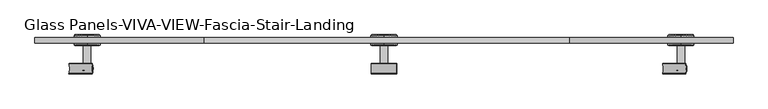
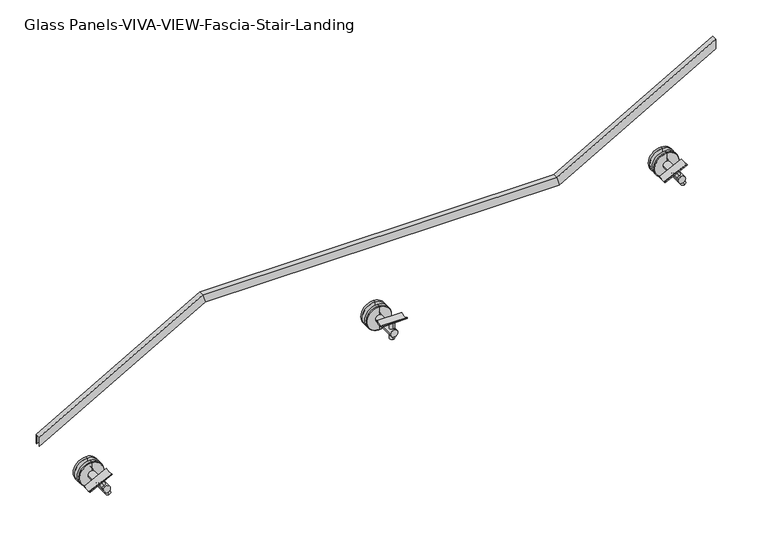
"""IFC4 building model written with IfcOpenShell, lengths in millimetres: railing geometry, Glass Panels-VIVA-VIEW-Fascia-Stair-Landing."""

from ifc_helpers import new_model, si_unit, point, frame, frame_2d, origin, place, context, project, spatial, polyline, circle_curve, trimmed, segment, composite_curve, outline, extrude, faceted_brep, source, transform, mapped, element, save
from ifc_brep_helpers import plane_surface, cylinder_surface, revolved_surface, advanced_brep


def glass_panels_viva_view_fascia_stair_landing_1252441f(model_context):
    return source(origin(), model_context, "Body", "SolidModel", [
        faceted_brep([(34673.4016433, -1461.4844585, 2988.1285714), (34673.4016433, -1445.6094585, 2988.1285714), (34673.4016433, -1445.6094585, 2958.8740933), (34673.4016433, -1447.1969585, 2958.8740933), (34673.4016433, -1447.1969585, 2986.3001665), (34673.4016433, -1459.8969585, 2986.3001665), (34673.4016433, -1459.8969585, 2958.8740933), (34673.4016433, -1461.4844585, 2958.8740933), (35165.5266433, -1461.4844585, 3269.3428571), (35165.5266433, -1445.6094585, 3269.3428571), (35172.27198, -1445.6094585, 3243.9428571), (35172.27198, -1447.1969585, 3243.9428571), (35165.9482268, -1447.1969585, 3267.7553571), (35165.9482268, -1459.8969585, 3267.7553571), (35172.27198, -1459.8969585, 3243.9428571), (35172.27198, -1461.4844585, 3243.9428571), (36232.3266433, -1461.4844585, 3269.3428571), (36232.3266433, -1445.6094585, 3269.3428571), (36239.07198, -1445.6094585, 3243.9428571), (36239.07198, -1447.1969585, 3243.9428571), (36232.7482268, -1447.1969585, 3267.7553571), (36232.7482268, -1459.8969585, 3267.7553571), (36239.07198, -1459.8969585, 3243.9428571), (36239.07198, -1461.4844585, 3243.9428571), (36710.9578933, -1461.4844585, 3542.8464286), (36710.9578933, -1461.4844585, 3513.5919505), (36710.9578933, -1459.8969585, 3513.5919505), (36710.9578933, -1459.8969585, 3541.0180237), (36710.9578933, -1447.1969585, 3541.0180237), (36710.9578933, -1447.1969585, 3513.5919505), (36710.9578933, -1445.6094585, 3513.5919505), (36710.9578933, -1445.6094585, 3542.8464286)], [[[0, 1, 2, 3, 4, 5, 6, 7]], [[1, 0, 8, 9]], [[2, 1, 9, 10]], [[3, 2, 10, 11]], [[4, 3, 11, 12]], [[5, 4, 12, 13]], [[6, 5, 13, 14]], [[7, 6, 14, 15]], [[0, 7, 15, 8]], [[9, 8, 16, 17]], [[10, 9, 17, 18]], [[11, 10, 18, 19]], [[12, 11, 19, 20]], [[13, 12, 20, 21]], [[14, 13, 21, 22]], [[15, 14, 22, 23]], [[8, 15, 23, 16]], [[24, 25, 26, 27, 28, 29, 30, 31]], [[17, 16, 24, 31]], [[18, 17, 31, 30]], [[19, 18, 30, 29]], [[20, 19, 29, 28]], [[21, 20, 28, 27]], [[22, 21, 27, 26]], [[23, 22, 26, 25]], [[16, 23, 25, 24]]]),
        extrude(outline(composite_curve([segment(trimmed(circle_curve(frame_2d((35692.1797683, -1535.7668194)), 7.0), [point((35692.1797683, -1542.7668194))], [point((35692.1797683, -1528.7668194))], False, "CARTESIAN"), True, "CONTINUOUS"), segment(trimmed(circle_curve(frame_2d((35692.1797683, -1535.7668194)), 7.0), [point((35692.1797683, -1528.7668194))], [point((35692.1797683, -1542.7668194))], False, "CARTESIAN"), True, "CONTINUOUS")], self_intersect=False)), frame((0.0, 0.0, 2992.4664418), z_axis=(0.0, 0.0, 1.0), x_axis=(1.0, 0.0, 0.0)), (0.0, 0.0, 1.0), 52.8378352),
        extrude(outline(composite_curve([segment(polyline([(5.2466064, -13.9247916), (4.2292193, -14.9511812)]), True, "CONTINUOUS"), segment(trimmed(circle_curve(frame_2d((3.1638974, -13.8952033)), 1.5), [point((4.2292193, -14.9511812))], [point((2.0329757, -14.8806048))], False, "CARTESIAN"), True, "CONTINUOUS"), segment(trimmed(circle_curve(frame_2d((18.6575251, -0.3952033)), 22.05), [point((2.0329757, -14.8806048))], [point((2.0329757, 14.0901981))], False, "CARTESIAN"), True, "CONTINUOUS"), segment(trimmed(circle_curve(frame_2d((3.1638974, 13.1047967)), 1.5), [point((2.0329757, 14.0901981))], [point((4.2292193, 14.1607745))], False, "CARTESIAN"), True, "CONTINUOUS"), segment(polyline([(4.2292193, 14.1607745), (5.2466064, 13.1343849)]), True, "CONTINUOUS"), segment(trimmed(circle_curve(frame_2d((18.6575251, -0.3952033)), 19.05), [point((5.2466064, 13.1343849))], [point((5.2466064, -13.9247916))], True, "CARTESIAN"), True, "CONTINUOUS")], self_intersect=False)), frame((35654.9926572, -1537.4940518, 3048.6249714), z_axis=(0.9999988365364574, 0.0, 0.0015254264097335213), x_axis=(-0.0015254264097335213, 0.0, 0.9999988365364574)), (0.0, 0.0, 1.0), 74.5229187),
        extrude(outline(composite_curve([segment(trimmed(circle_curve(frame_2d((3015.3428571, 35692.1797683)), 11.0132813), [point((3015.3428571, 35703.1930495))], [point((3015.3428571, 35681.166487))], False, "CARTESIAN"), True, "CONTINUOUS"), segment(trimmed(circle_curve(frame_2d((3015.3428571, 35692.1797683)), 11.0132813), [point((3015.3428571, 35681.166487))], [point((3015.3428571, 35703.1930495))], False, "CARTESIAN"), True, "CONTINUOUS")], self_intersect=False)), frame((0.0, -1548.7969585, 0.0), z_axis=(0.0, 1.0, 0.0), x_axis=(0.0, 0.0, 1.0)), (0.0, 0.0, 1.0), 79.2757812),
        advanced_brep(
        [(35692.1797683, -1437.5727397, 3015.3428571), (35692.1797683, -1437.5727397, 2979.2272321), (35692.1797683, -1437.5727397, 3051.4584821), (35692.1797683, -1469.5211772, 2979.2272321), (35692.1797683, -1469.5211772, 3015.3428571), (35692.1797683, -1469.5211772, 3051.4584821), (35692.1797683, -1467.5368022, 2977.2428571), (35692.1797683, -1467.5368022, 3053.4428571), (35692.1797683, -1459.8969585, 2977.2428571), (35692.1797683, -1459.8969585, 3053.4428571), (35692.1797683, -1459.8969585, 3002.6428571), (35692.1797683, -1459.8969585, 3028.0428571), (35692.1797683, -1447.1969585, 3002.6428571), (35692.1797683, -1447.1969585, 3028.0428571), (35692.1797683, -1447.1969585, 2977.2428571), (35692.1797683, -1447.1969585, 3053.4428571), (35692.1797683, -1439.5571147, 2977.2428571), (35692.1797683, -1439.5571147, 3053.4428571)],
        [
            (0, 1),
            (1, 2, circle_curve(frame((35692.1797683, -1437.5727397, 3015.3428571), z_axis=(0.0, 1.0, 0.0), x_axis=(0.0, 0.0, 1.0)), 36.115625)),
            (2, 0),
            (2, 1, circle_curve(frame((35692.1797683, -1437.5727397, 3015.3428571), z_axis=(0.0, 1.0, 0.0), x_axis=(0.0, 0.0, 1.0)), 36.115625)),
            (3, 4),
            (4, 5),
            (5, 3, circle_curve(frame((35692.1797683, -1469.5211772, 3015.3428571), z_axis=(0.0, -1.0, 0.0), x_axis=(0.0, 0.0, 1.0)), 36.115625)),
            (3, 5, circle_curve(frame((35692.1797683, -1469.5211772, 3015.3428571), z_axis=(0.0, -1.0, 0.0), x_axis=(0.0, 0.0, 1.0)), 36.115625)),
            (6, 3),
            (5, 7),
            (7, 6, circle_curve(frame((35692.1797683, -1467.5368022, 3015.3428571), z_axis=(0.0, -1.0, 0.0), x_axis=(0.0, 0.0, 1.0)), 38.1)),
            (6, 7, circle_curve(frame((35692.1797683, -1467.5368022, 3015.3428571), z_axis=(0.0, -1.0, 0.0), x_axis=(0.0, 0.0, 1.0)), 38.1)),
            (8, 6),
            (7, 9),
            (9, 8, circle_curve(frame((35692.1797683, -1459.8969585, 3015.3428571), z_axis=(0.0, -1.0, 0.0), x_axis=(0.0, 0.0, 1.0)), 38.1)),
            (8, 9, circle_curve(frame((35692.1797683, -1459.8969585, 3015.3428571), z_axis=(0.0, -1.0, 0.0), x_axis=(0.0, 0.0, 1.0)), 38.1)),
            (10, 8),
            (9, 11),
            (11, 10, circle_curve(frame((35692.1797683, -1459.8969585, 3015.3428571), z_axis=(0.0, -1.0, 0.0), x_axis=(0.0, 0.0, 1.0)), 12.7)),
            (10, 11, circle_curve(frame((35692.1797683, -1459.8969585, 3015.3428571), z_axis=(0.0, -1.0, 0.0), x_axis=(0.0, 0.0, 1.0)), 12.7)),
            (12, 10),
            (11, 13),
            (13, 12, circle_curve(frame((35692.1797683, -1447.1969585, 3015.3428571), z_axis=(0.0, -1.0, 0.0), x_axis=(0.0, 0.0, 1.0)), 12.7)),
            (12, 13, circle_curve(frame((35692.1797683, -1447.1969585, 3015.3428571), z_axis=(0.0, -1.0, 0.0), x_axis=(0.0, 0.0, 1.0)), 12.7)),
            (14, 12),
            (13, 15),
            (15, 14, circle_curve(frame((35692.1797683, -1447.1969585, 3015.3428571), z_axis=(0.0, -1.0, 0.0), x_axis=(0.0, 0.0, 1.0)), 38.1)),
            (14, 15, circle_curve(frame((35692.1797683, -1447.1969585, 3015.3428571), z_axis=(0.0, -1.0, 0.0), x_axis=(0.0, 0.0, 1.0)), 38.1)),
            (16, 14),
            (15, 17),
            (17, 16, circle_curve(frame((35692.1797683, -1439.5571147, 3015.3428571), z_axis=(0.0, -1.0, 0.0), x_axis=(0.0, 0.0, 1.0)), 38.1)),
            (16, 17, circle_curve(frame((35692.1797683, -1439.5571147, 3015.3428571), z_axis=(0.0, -1.0, 0.0), x_axis=(0.0, 0.0, 1.0)), 38.1)),
            (1, 16),
            (17, 2),
        ],
        [
            plane_surface(frame((35692.1797683, -1437.5727397, 3015.3428571), z_axis=(0.0, 1.0, 0.0), x_axis=(0.0, 0.0, 1.0))),
            plane_surface(frame((35692.1797683, -1469.5211772, 3015.3428571), z_axis=(0.0, -1.0, 0.0), x_axis=(0.0, 0.0, 1.0))),
            revolved_surface(polyline([(35692.1797683, -1469.5211772, 3051.4584821), (35692.1797683, -1467.5368022, 3053.4428571)]), (35692.1797683, -1401.4571147, 3015.3428571), (0.0, 1.0, 0.0)),
            cylinder_surface(frame((35692.1797683, -1401.4571147, 3015.3428571), z_axis=(0.0, 1.0, 0.0), x_axis=(0.0, 0.0, 1.0)), 38.1),
            plane_surface(frame((35692.1797683, -1459.8969585, 3015.3428571), z_axis=(0.0, 1.0, 0.0), x_axis=(0.0, 0.0, 1.0))),
            cylinder_surface(frame((35692.1797683, -1401.4571147, 3015.3428571), z_axis=(0.0, 1.0, 0.0), x_axis=(0.0, 0.0, 1.0)), 12.7),
            plane_surface(frame((35692.1797683, -1447.1969585, 3015.3428571), z_axis=(0.0, -1.0, 0.0), x_axis=(0.0, 0.0, 1.0))),
            revolved_surface(polyline([(35692.1797683, -1439.5571147, 3053.4428571), (35692.1797683, -1437.5727397, 3051.4584821)]), (35692.1797683, -1401.4571147, 3015.3428571), (0.0, 1.0, 0.0)),
        ],
        [
            (0, [[1, 2, 3]]),
            (0, [[-3, 4, -1]]),
            (1, [[5, 6, 7]]),
            (1, [[-6, -5, 8]]),
            (2, [[9, -7, 10, 11]]),
            (2, [[-10, -8, -9, 12]]),
            (3, [[13, -11, 14, 15]]),
            (3, [[-14, -12, -13, 16]]),
            (4, [[17, -15, 18, 19]]),
            (4, [[-18, -16, -17, 20]]),
            (5, [[21, -19, 22, 23]]),
            (5, [[-22, -20, -21, 24]]),
            (6, [[25, -23, 26, 27]]),
            (6, [[-26, -24, -25, 28]]),
            (3, [[29, -27, 30, 31]]),
            (3, [[-30, -28, -29, 32]]),
            (7, [[33, -31, 34, -2]]),
            (7, [[-34, -32, -33, -4]]),
        ],
    ),
        extrude(outline(composite_curve([segment(trimmed(circle_curve(frame_2d((0.0, 7.0)), 7.0), [point((0.0, 14.0))], [point((0.0, 0.0))], False, "CARTESIAN"), True, "CONTINUOUS"), segment(trimmed(circle_curve(frame_2d((0.0, 7.0)), 7.0), [point((0.0, 0.0))], [point((0.0, 14.0))], False, "CARTESIAN"), True, "CONTINUOUS")], self_intersect=False)), frame((36569.978817, -1528.7668194, 3178.8842989), z_axis=(-0.4481147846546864, 0.0, 0.8939760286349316), x_axis=(-0.8939760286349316, 0.0, -0.4481147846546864)), (0.0, 0.0, 1.0), 52.8378352),
        extrude(outline(composite_curve([segment(polyline([(5.2466063, -13.9247916), (4.2292193, -14.9511812)]), True, "CONTINUOUS"), segment(trimmed(circle_curve(frame_2d((3.1638975, -13.8952033)), 1.5), [point((4.2292193, -14.9511812))], [point((2.0329757, -14.8806048))], False, "CARTESIAN"), True, "CONTINUOUS"), segment(trimmed(circle_curve(frame_2d((18.6575251, -0.3952033)), 22.05), [point((2.0329757, -14.8806048))], [point((2.0329757, 14.0901981))], False, "CARTESIAN"), True, "CONTINUOUS"), segment(trimmed(circle_curve(frame_2d((3.1638975, 13.1047967)), 1.5), [point((2.0329757, 14.0901981))], [point((4.2292193, 14.1607745))], False, "CARTESIAN"), True, "CONTINUOUS"), segment(polyline([(4.2292193, 14.1607745), (5.2466063, 13.1343849)]), True, "CONTINUOUS"), segment(trimmed(circle_curve(frame_2d((18.6575251, -0.3952033)), 19.05), [point((5.2466063, 13.1343849))], [point((5.2466063, -13.9247916))], True, "CARTESIAN"), True, "CONTINUOUS")], self_intersect=False)), frame((36507.324839, -1537.4940518, 3210.5094028), z_axis=(0.8953503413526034, 0.0, 0.44536251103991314), x_axis=(-0.44536251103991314, 0.0, 0.8953503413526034)), (0.0, 0.0, 1.0), 74.5229187),
        extrude(outline(composite_curve([segment(trimmed(circle_curve(frame_2d((3201.7607143, 36558.5578933)), 11.0132813), [point((3201.7607143, 36569.5711745))], [point((3201.7607143, 36547.544612))], False, "CARTESIAN"), True, "CONTINUOUS"), segment(trimmed(circle_curve(frame_2d((3201.7607143, 36558.5578933)), 11.0132813), [point((3201.7607143, 36547.544612))], [point((3201.7607143, 36569.5711745))], False, "CARTESIAN"), True, "CONTINUOUS")], self_intersect=False)), frame((0.0, -1548.7969585, 0.0), z_axis=(0.0, 1.0, 0.0), x_axis=(0.0, 0.0, 1.0)), (0.0, 0.0, 1.0), 79.2757812),
        advanced_brep(
        [(36558.5578933, -1437.5727397, 3201.7607143), (36558.5578933, -1437.5727397, 3165.6450893), (36558.5578933, -1437.5727397, 3237.8763393), (36558.5578933, -1469.5211772, 3165.6450893), (36558.5578933, -1469.5211772, 3201.7607143), (36558.5578933, -1469.5211772, 3237.8763393), (36558.5578933, -1467.5368022, 3163.6607143), (36558.5578933, -1467.5368022, 3239.8607143), (36558.5578933, -1459.8969585, 3163.6607143), (36558.5578933, -1459.8969585, 3239.8607143), (36558.5578933, -1459.8969585, 3189.0607143), (36558.5578933, -1459.8969585, 3214.4607143), (36558.5578933, -1447.1969585, 3189.0607143), (36558.5578933, -1447.1969585, 3214.4607143), (36558.5578933, -1447.1969585, 3163.6607143), (36558.5578933, -1447.1969585, 3239.8607143), (36558.5578933, -1439.5571147, 3163.6607143), (36558.5578933, -1439.5571147, 3239.8607143)],
        [
            (0, 1),
            (1, 2, circle_curve(frame((36558.5578933, -1437.5727397, 3201.7607143), z_axis=(0.0, 1.0, 0.0), x_axis=(0.0, 0.0, 1.0)), 36.115625)),
            (2, 0),
            (2, 1, circle_curve(frame((36558.5578933, -1437.5727397, 3201.7607143), z_axis=(0.0, 1.0, 0.0), x_axis=(0.0, 0.0, 1.0)), 36.115625)),
            (3, 4),
            (4, 5),
            (5, 3, circle_curve(frame((36558.5578933, -1469.5211772, 3201.7607143), z_axis=(0.0, -1.0, 0.0), x_axis=(0.0, 0.0, 1.0)), 36.115625)),
            (3, 5, circle_curve(frame((36558.5578933, -1469.5211772, 3201.7607143), z_axis=(0.0, -1.0, 0.0), x_axis=(0.0, 0.0, 1.0)), 36.115625)),
            (6, 3),
            (5, 7),
            (7, 6, circle_curve(frame((36558.5578933, -1467.5368022, 3201.7607143), z_axis=(0.0, -1.0, 0.0), x_axis=(0.0, 0.0, 1.0)), 38.1)),
            (6, 7, circle_curve(frame((36558.5578933, -1467.5368022, 3201.7607143), z_axis=(0.0, -1.0, 0.0), x_axis=(0.0, 0.0, 1.0)), 38.1)),
            (8, 6),
            (7, 9),
            (9, 8, circle_curve(frame((36558.5578933, -1459.8969585, 3201.7607143), z_axis=(0.0, -1.0, 0.0), x_axis=(0.0, 0.0, 1.0)), 38.1)),
            (8, 9, circle_curve(frame((36558.5578933, -1459.8969585, 3201.7607143), z_axis=(0.0, -1.0, 0.0), x_axis=(0.0, 0.0, 1.0)), 38.1)),
            (10, 8),
            (9, 11),
            (11, 10, circle_curve(frame((36558.5578933, -1459.8969585, 3201.7607143), z_axis=(0.0, -1.0, 0.0), x_axis=(0.0, 0.0, 1.0)), 12.7)),
            (10, 11, circle_curve(frame((36558.5578933, -1459.8969585, 3201.7607143), z_axis=(0.0, -1.0, 0.0), x_axis=(0.0, 0.0, 1.0)), 12.7)),
            (12, 10),
            (11, 13),
            (13, 12, circle_curve(frame((36558.5578933, -1447.1969585, 3201.7607143), z_axis=(0.0, -1.0, 0.0), x_axis=(0.0, 0.0, 1.0)), 12.7)),
            (12, 13, circle_curve(frame((36558.5578933, -1447.1969585, 3201.7607143), z_axis=(0.0, -1.0, 0.0), x_axis=(0.0, 0.0, 1.0)), 12.7)),
            (14, 12),
            (13, 15),
            (15, 14, circle_curve(frame((36558.5578933, -1447.1969585, 3201.7607143), z_axis=(0.0, -1.0, 0.0), x_axis=(0.0, 0.0, 1.0)), 38.1)),
            (14, 15, circle_curve(frame((36558.5578933, -1447.1969585, 3201.7607143), z_axis=(0.0, -1.0, 0.0), x_axis=(0.0, 0.0, 1.0)), 38.1)),
            (16, 14),
            (15, 17),
            (17, 16, circle_curve(frame((36558.5578933, -1439.5571147, 3201.7607143), z_axis=(0.0, -1.0, 0.0), x_axis=(0.0, 0.0, 1.0)), 38.1)),
            (16, 17, circle_curve(frame((36558.5578933, -1439.5571147, 3201.7607143), z_axis=(0.0, -1.0, 0.0), x_axis=(0.0, 0.0, 1.0)), 38.1)),
            (1, 16),
            (17, 2),
        ],
        [
            plane_surface(frame((36558.5578933, -1437.5727397, 3201.7607143), z_axis=(0.0, 1.0, 0.0), x_axis=(0.0, 0.0, 1.0))),
            plane_surface(frame((36558.5578933, -1469.5211772, 3201.7607143), z_axis=(0.0, -1.0, 0.0), x_axis=(0.0, 0.0, 1.0))),
            revolved_surface(polyline([(36558.5578933, -1469.5211772, 3237.8763393), (36558.5578933, -1467.5368022, 3239.8607143)]), (36558.5578933, -1401.4571147, 3201.7607143), (0.0, 1.0, 0.0)),
            cylinder_surface(frame((36558.5578933, -1401.4571147, 3201.7607143), z_axis=(0.0, 1.0, 0.0), x_axis=(0.0, 0.0, 1.0)), 38.1),
            plane_surface(frame((36558.5578933, -1459.8969585, 3201.7607143), z_axis=(0.0, 1.0, 0.0), x_axis=(0.0, 0.0, 1.0))),
            cylinder_surface(frame((36558.5578933, -1401.4571147, 3201.7607143), z_axis=(0.0, 1.0, 0.0), x_axis=(0.0, 0.0, 1.0)), 12.7),
            plane_surface(frame((36558.5578933, -1447.1969585, 3201.7607143), z_axis=(0.0, -1.0, 0.0), x_axis=(0.0, 0.0, 1.0))),
            revolved_surface(polyline([(36558.5578933, -1439.5571147, 3239.8607143), (36558.5578933, -1437.5727397, 3237.8763393)]), (36558.5578933, -1401.4571147, 3201.7607143), (0.0, 1.0, 0.0)),
        ],
        [
            (0, [[1, 2, 3]]),
            (0, [[-3, 4, -1]]),
            (1, [[5, 6, 7]]),
            (1, [[-6, -5, 8]]),
            (2, [[9, -7, 10, 11]]),
            (2, [[-10, -8, -9, 12]]),
            (3, [[13, -11, 14, 15]]),
            (3, [[-14, -12, -13, 16]]),
            (4, [[17, -15, 18, 19]]),
            (4, [[-18, -16, -17, 20]]),
            (5, [[21, -19, 22, 23]]),
            (5, [[-22, -20, -21, 24]]),
            (6, [[25, -23, 26, 27]]),
            (6, [[-26, -24, -25, 28]]),
            (3, [[29, -27, 30, 31]]),
            (3, [[-30, -28, -29, 32]]),
            (7, [[33, -31, 34, -2]]),
            (7, [[-34, -32, -33, -4]]),
        ],
    ),
        extrude(outline(composite_curve([segment(trimmed(circle_curve(frame_2d((0.0, 7.0)), 7.0), [point((0.0, 14.0))], [point((0.0, 0.0))], False, "CARTESIAN"), True, "CONTINUOUS"), segment(trimmed(circle_curve(frame_2d((0.0, 7.0)), 7.0), [point((0.0, 0.0))], [point((0.0, 14.0))], False, "CARTESIAN"), True, "CONTINUOUS")], self_intersect=False)), frame((34837.222567, -1528.7668194, 2798.3378704), z_axis=(-0.4481147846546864, 0.0, 0.8939760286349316), x_axis=(-0.8939760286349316, 0.0, -0.4481147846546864)), (0.0, 0.0, 1.0), 52.8378352),
        extrude(outline(composite_curve([segment(polyline([(5.2466063, -13.9247916), (4.2292192, -14.9511812)]), True, "CONTINUOUS"), segment(trimmed(circle_curve(frame_2d((3.1638974, -13.8952033)), 1.5), [point((4.2292192, -14.9511812))], [point((2.0329756, -14.8806048))], False, "CARTESIAN"), True, "CONTINUOUS"), segment(trimmed(circle_curve(frame_2d((18.6575251, -0.3952033)), 22.05), [point((2.0329756, -14.8806048))], [point((2.0329756, 14.0901981))], False, "CARTESIAN"), True, "CONTINUOUS"), segment(trimmed(circle_curve(frame_2d((3.1638974, 13.1047967)), 1.5), [point((2.0329756, 14.0901981))], [point((4.2292192, 14.1607745))], False, "CARTESIAN"), True, "CONTINUOUS"), segment(polyline([(4.2292192, 14.1607745), (5.2466063, 13.1343849)]), True, "CONTINUOUS"), segment(trimmed(circle_curve(frame_2d((18.6575251, -0.3952033)), 19.05), [point((5.2466063, 13.1343849))], [point((5.2466063, -13.9247916))], True, "CARTESIAN"), True, "CONTINUOUS")], self_intersect=False)), frame((34774.568589, -1537.4940518, 2829.9629743), z_axis=(0.8953503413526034, 0.0, 0.44536251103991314), x_axis=(-0.44536251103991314, 0.0, 0.8953503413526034)), (0.0, 0.0, 1.0), 74.5229187),
        extrude(outline(composite_curve([segment(trimmed(circle_curve(frame_2d((2821.2142857, 34825.8016433)), 11.0132813), [point((2821.2142857, 34836.8149245))], [point((2821.2142857, 34814.788362))], False, "CARTESIAN"), True, "CONTINUOUS"), segment(trimmed(circle_curve(frame_2d((2821.2142857, 34825.8016433)), 11.0132813), [point((2821.2142857, 34814.788362))], [point((2821.2142857, 34836.8149245))], False, "CARTESIAN"), True, "CONTINUOUS")], self_intersect=False)), frame((0.0, -1548.7969585, 0.0), z_axis=(0.0, 1.0, 0.0), x_axis=(0.0, 0.0, 1.0)), (0.0, 0.0, 1.0), 79.2757812),
        advanced_brep(
        [(34825.8016433, -1437.5727397, 2821.2142857), (34825.8016433, -1437.5727397, 2785.0986607), (34825.8016433, -1437.5727397, 2857.3299107), (34825.8016433, -1469.5211772, 2785.0986607), (34825.8016433, -1469.5211772, 2821.2142857), (34825.8016433, -1469.5211772, 2857.3299107), (34825.8016433, -1467.5368022, 2783.1142857), (34825.8016433, -1467.5368022, 2859.3142857), (34825.8016433, -1459.8969585, 2783.1142857), (34825.8016433, -1459.8969585, 2859.3142857), (34825.8016433, -1459.8969585, 2808.5142857), (34825.8016433, -1459.8969585, 2833.9142857), (34825.8016433, -1447.1969585, 2808.5142857), (34825.8016433, -1447.1969585, 2833.9142857), (34825.8016433, -1447.1969585, 2783.1142857), (34825.8016433, -1447.1969585, 2859.3142857), (34825.8016433, -1439.5571147, 2783.1142857), (34825.8016433, -1439.5571147, 2859.3142857)],
        [
            (0, 1),
            (1, 2, circle_curve(frame((34825.8016433, -1437.5727397, 2821.2142857), z_axis=(0.0, 1.0, 0.0), x_axis=(0.0, 0.0, 1.0)), 36.115625)),
            (2, 0),
            (2, 1, circle_curve(frame((34825.8016433, -1437.5727397, 2821.2142857), z_axis=(0.0, 1.0, 0.0), x_axis=(0.0, 0.0, 1.0)), 36.115625)),
            (3, 4),
            (4, 5),
            (5, 3, circle_curve(frame((34825.8016433, -1469.5211772, 2821.2142857), z_axis=(0.0, -1.0, 0.0), x_axis=(0.0, 0.0, 1.0)), 36.115625)),
            (3, 5, circle_curve(frame((34825.8016433, -1469.5211772, 2821.2142857), z_axis=(0.0, -1.0, 0.0), x_axis=(0.0, 0.0, 1.0)), 36.115625)),
            (6, 3),
            (5, 7),
            (7, 6, circle_curve(frame((34825.8016433, -1467.5368022, 2821.2142857), z_axis=(0.0, -1.0, 0.0), x_axis=(0.0, 0.0, 1.0)), 38.1)),
            (6, 7, circle_curve(frame((34825.8016433, -1467.5368022, 2821.2142857), z_axis=(0.0, -1.0, 0.0), x_axis=(0.0, 0.0, 1.0)), 38.1)),
            (8, 6),
            (7, 9),
            (9, 8, circle_curve(frame((34825.8016433, -1459.8969585, 2821.2142857), z_axis=(0.0, -1.0, 0.0), x_axis=(0.0, 0.0, 1.0)), 38.1)),
            (8, 9, circle_curve(frame((34825.8016433, -1459.8969585, 2821.2142857), z_axis=(0.0, -1.0, 0.0), x_axis=(0.0, 0.0, 1.0)), 38.1)),
            (10, 8),
            (9, 11),
            (11, 10, circle_curve(frame((34825.8016433, -1459.8969585, 2821.2142857), z_axis=(0.0, -1.0, 0.0), x_axis=(0.0, 0.0, 1.0)), 12.7)),
            (10, 11, circle_curve(frame((34825.8016433, -1459.8969585, 2821.2142857), z_axis=(0.0, -1.0, 0.0), x_axis=(0.0, 0.0, 1.0)), 12.7)),
            (12, 10),
            (11, 13),
            (13, 12, circle_curve(frame((34825.8016433, -1447.1969585, 2821.2142857), z_axis=(0.0, -1.0, 0.0), x_axis=(0.0, 0.0, 1.0)), 12.7)),
            (12, 13, circle_curve(frame((34825.8016433, -1447.1969585, 2821.2142857), z_axis=(0.0, -1.0, 0.0), x_axis=(0.0, 0.0, 1.0)), 12.7)),
            (14, 12),
            (13, 15),
            (15, 14, circle_curve(frame((34825.8016433, -1447.1969585, 2821.2142857), z_axis=(0.0, -1.0, 0.0), x_axis=(0.0, 0.0, 1.0)), 38.1)),
            (14, 15, circle_curve(frame((34825.8016433, -1447.1969585, 2821.2142857), z_axis=(0.0, -1.0, 0.0), x_axis=(0.0, 0.0, 1.0)), 38.1)),
            (16, 14),
            (15, 17),
            (17, 16, circle_curve(frame((34825.8016433, -1439.5571147, 2821.2142857), z_axis=(0.0, -1.0, 0.0), x_axis=(0.0, 0.0, 1.0)), 38.1)),
            (16, 17, circle_curve(frame((34825.8016433, -1439.5571147, 2821.2142857), z_axis=(0.0, -1.0, 0.0), x_axis=(0.0, 0.0, 1.0)), 38.1)),
            (1, 16),
            (17, 2),
        ],
        [
            plane_surface(frame((34825.8016433, -1437.5727397, 2821.2142857), z_axis=(0.0, 1.0, 0.0), x_axis=(0.0, 0.0, 1.0))),
            plane_surface(frame((34825.8016433, -1469.5211772, 2821.2142857), z_axis=(0.0, -1.0, 0.0), x_axis=(0.0, 0.0, 1.0))),
            revolved_surface(polyline([(34825.8016433, -1469.5211772, 2857.3299107), (34825.8016433, -1467.5368022, 2859.3142857)]), (34825.8016433, -1401.4571147, 2821.2142857), (0.0, 1.0, 0.0)),
            cylinder_surface(frame((34825.8016433, -1401.4571147, 2821.2142857), z_axis=(0.0, 1.0, 0.0), x_axis=(0.0, 0.0, 1.0)), 38.1),
            plane_surface(frame((34825.8016433, -1459.8969585, 2821.2142857), z_axis=(0.0, 1.0, 0.0), x_axis=(0.0, 0.0, 1.0))),
            cylinder_surface(frame((34825.8016433, -1401.4571147, 2821.2142857), z_axis=(0.0, 1.0, 0.0), x_axis=(0.0, 0.0, 1.0)), 12.7),
            plane_surface(frame((34825.8016433, -1447.1969585, 2821.2142857), z_axis=(0.0, -1.0, 0.0), x_axis=(0.0, 0.0, 1.0))),
            revolved_surface(polyline([(34825.8016433, -1439.5571147, 2859.3142857), (34825.8016433, -1437.5727397, 2857.3299107)]), (34825.8016433, -1401.4571147, 2821.2142857), (0.0, 1.0, 0.0)),
        ],
        [
            (0, [[1, 2, 3]]),
            (0, [[-3, 4, -1]]),
            (1, [[5, 6, 7]]),
            (1, [[-6, -5, 8]]),
            (2, [[9, -7, 10, 11]]),
            (2, [[-10, -8, -9, 12]]),
            (3, [[13, -11, 14, 15]]),
            (3, [[-14, -12, -13, 16]]),
            (4, [[17, -15, 18, 19]]),
            (4, [[-18, -16, -17, 20]]),
            (5, [[21, -19, 22, 23]]),
            (5, [[-22, -20, -21, 24]]),
            (6, [[25, -23, 26, 27]]),
            (6, [[-26, -24, -25, 28]]),
            (3, [[29, -27, 30, 31]]),
            (3, [[-30, -28, -29, 32]]),
            (7, [[33, -31, 34, -2]]),
            (7, [[-34, -32, -33, -4]]),
        ],
    ),
    ])


if __name__ == "__main__":
    model = new_model("IFC4")
    model_context = context("Model", 3, world=origin())
    ifc_project = project(units=[si_unit("LENGTHUNIT", "METRE", prefix="MILLI")], contexts=[model_context])
    site = spatial("IfcSite", under=ifc_project)
    building = spatial("IfcBuilding", under=site)
    placement = place(None, origin())
    glass_panels_viva_view_fascia_stair_landing_shape = glass_panels_viva_view_fascia_stair_landing_1252441f(model_context)
    element("IfcRailing", 1, ObjectType="Glass Panels-VIVA-VIEW-Fascia-Stair-Landing", at=placement, inside=building, context=model_context, shape_type="MappedRepresentation", body=[
        mapped(glass_panels_viva_view_fascia_stair_landing_shape, transform((0.0, 0.0, 0.0), x_axis=(1.0, 0.0, 0.0), y_axis=(0.0, 1.0, 0.0), z_axis=(0.0, 0.0, 1.0))),
    ])
    save(model, "model.ifc")
